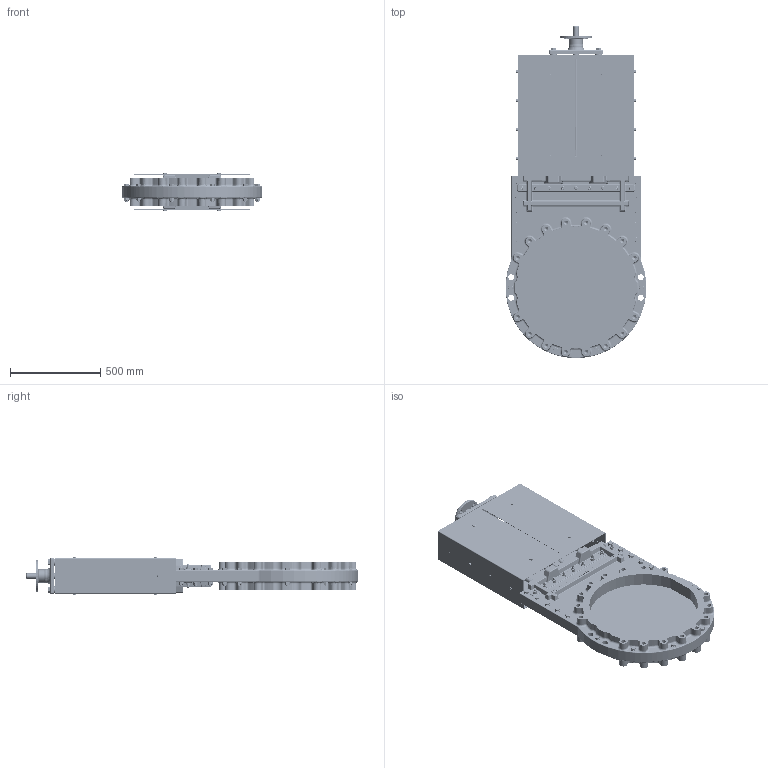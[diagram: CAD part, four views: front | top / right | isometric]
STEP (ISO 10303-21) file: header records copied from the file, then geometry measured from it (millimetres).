
FILE_DESCRIPTION(/* description */ (''),/* implementation_level */ '2;1');
FILE_NAME(/* name */ 'Rising stem knife gate valve with top flange DN600-10.stp',/* time_stamp */ '2025-04-21T16:29:43+08:00',/* author */ (''),/* organization */ (''),/* preprocessor_version */ 'ST-DEVELOPER v15',/* originating_system */ 'SIEMENS PLM Software NX 10.0',/* authorisation */ '');
FILE_SCHEMA (('AP203_CONFIGURATION_CONTROLLED_3D_DESIGN_OF_MECHANICAL_PARTS_AND_ASSEMBLIES_MIM_LF { 1 0 10303 403 2 1 2}'));
Products named in the file (1): Admi256412D81nnn
Bounding box: 778.14 x 1835.78 x 213.8 mm (x, y, z)
Volume: 48874585.5 mm3; surface area: 5595246.5 mm2
Topology: 1 solids, 67 shells, 3948 faces, 9379 edges, 5820 vertices
Faces by surface type: plane 1644, cylinder 1057, cone 411, extrusion 337, bspline 176, torus 175, sphere 148
Full cylindrical faces by diameter (mm): 2 x4, 5.2 x1, 8 x16, 8.4 x16, 8.5 x8, 9.5 x16, 10 x8, 10.5 x8, 11 x12, 11.4 x8, 12 x44, 12.5 x18, 13 x18, 15.053 x16, 15.6 x8, 16 x52, 16.5 x2, 17 x32, 17.5 x8, 18 x4, 19.053 x4, 20 x16, 21 x12, 22 x34, 23 x2, 24 x50, 25 x6, 26 x1, 27 x4, 28 x4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
Entity records: 114358 total; most frequent: CARTESIAN_POINT 31324, DIRECTION 16328, ORIENTED_EDGE 16076, EDGE_CURVE 8038, AXIS2_PLACEMENT_3D 6494, VERTEX_POINT 5503, EDGE_LOOP 5389, ADVANCED_FACE 3948
